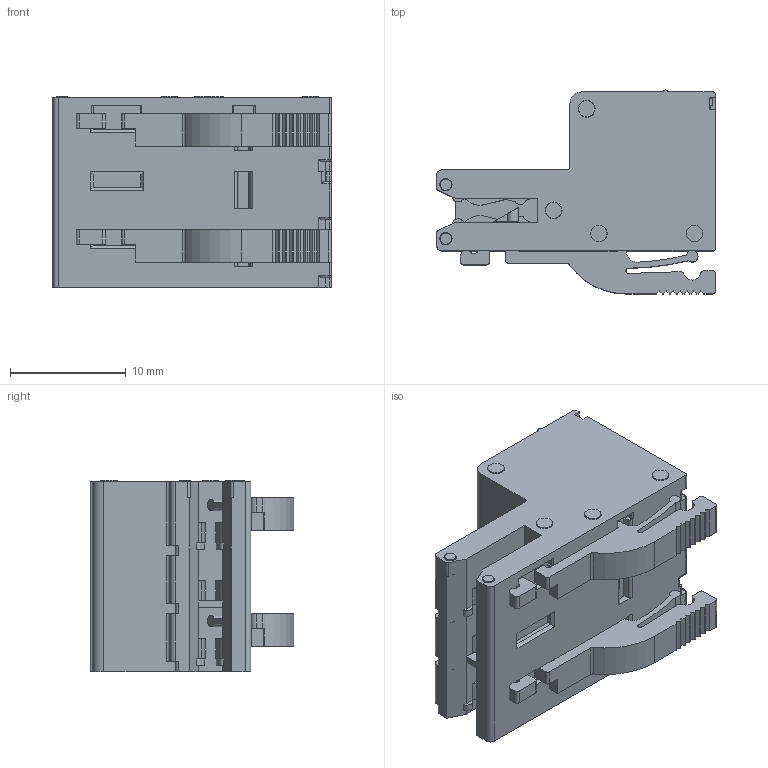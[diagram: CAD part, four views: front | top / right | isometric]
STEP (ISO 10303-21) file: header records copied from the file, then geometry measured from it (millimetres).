
FILE_DESCRIPTION((''),'2;1');
FILE_NAME('3PIN','2019-06-05T',('zhenbing.lai'),(''),'CREO PARAMETRIC BY PTC INC, 2016260','CREO PARAMETRIC BY PTC INC, 2016260','');
FILE_SCHEMA(('CONFIG_CONTROL_DESIGN'));
Length unit declared in the file: metre
Products named in the file (1): 3PIN
Bounding box: 24.05 x 17.57 x 16.5 mm (x, y, z)
Volume: 3951.5 mm3; surface area: 2669.8 mm2
Topology: 1 solids, 14 shells, 740 faces, 1938 edges, 1242 vertices
Faces by surface type: plane 460, cylinder 195, cone 75, sphere 6, torus 4
Entity records: 22737 total; most frequent: CARTESIAN_POINT 4146, ORIENTED_EDGE 3864, DIRECTION 3847, EDGE_CURVE 1932, VECTOR 1429, LINE 1429, VERTEX_POINT 1242, AXIS2_PLACEMENT_3D 1209
